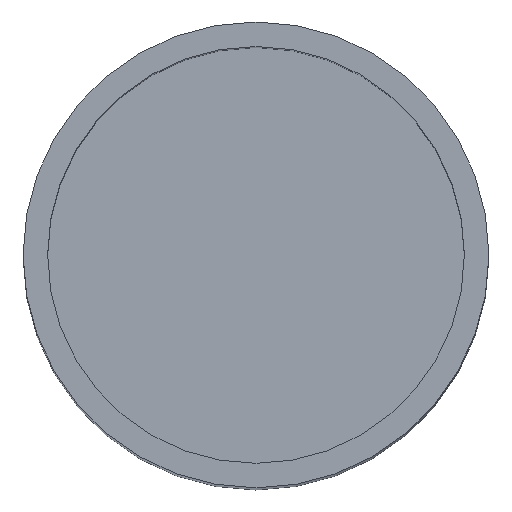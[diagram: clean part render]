
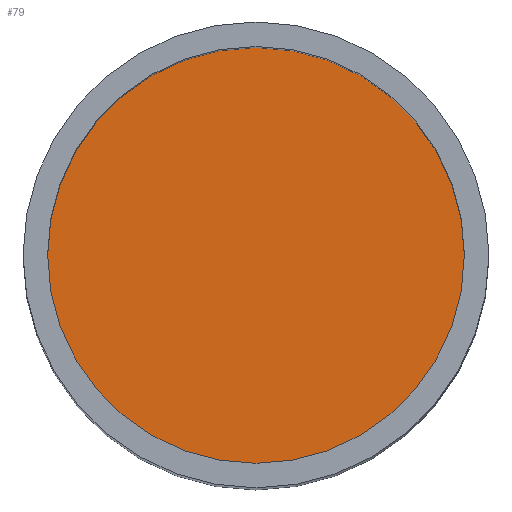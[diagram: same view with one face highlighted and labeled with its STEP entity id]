
A CAD part, top view. The second image highlights one B-rep face of the part: STEP entity #79.
In plain terms, the highlighted planar face has unit normal (0, 0, 1).
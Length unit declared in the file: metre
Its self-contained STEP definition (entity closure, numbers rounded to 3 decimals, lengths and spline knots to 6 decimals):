
#15=PLANE('',#105);
#27=ORIENTED_EDGE('',*,*,#33,.T.);
#33=EDGE_CURVE('',#39,#39,#45,.T.);
#39=VERTEX_POINT('',#151);
#45=CIRCLE('',#103,0.017);
#57=EDGE_LOOP('',(#27));
#69=FACE_BOUND('',#57,.T.);
#79=ADVANCED_FACE('',(#69),#15,.T.);
#103=AXIS2_PLACEMENT_3D('',#150,#128,#129);
#105=AXIS2_PLACEMENT_3D('',#153,#132,#133);
#128=DIRECTION('',(0.,0.,1.));
#129=DIRECTION('',(1.,0.,0.));
#132=DIRECTION('',(0.,0.,1.));
#133=DIRECTION('',(1.,0.,0.));
#150=CARTESIAN_POINT('',(0.,0.,0.054));
#151=CARTESIAN_POINT('',(0.017,0.,0.054));
#153=CARTESIAN_POINT('',(0.,0.,0.054));
